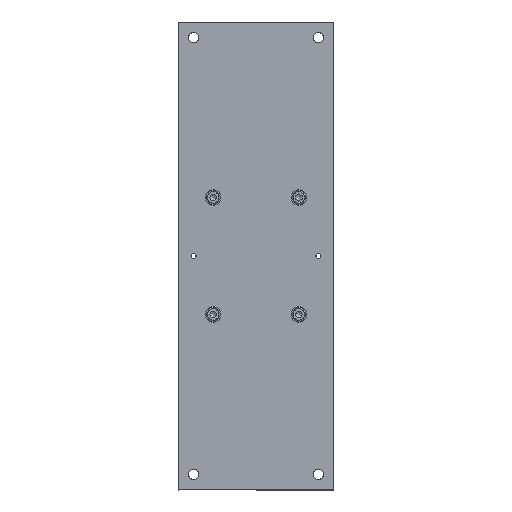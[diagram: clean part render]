
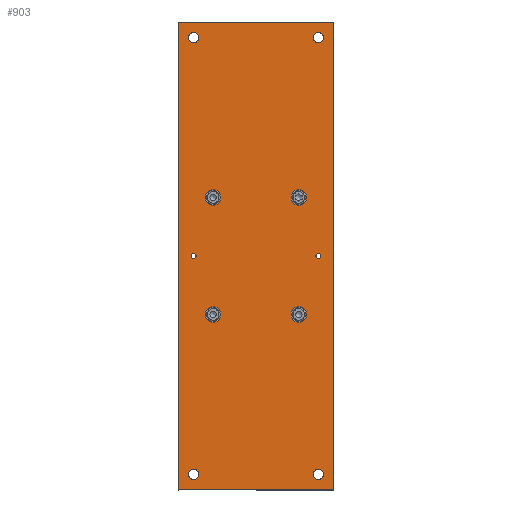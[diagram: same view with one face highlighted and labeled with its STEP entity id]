
A CAD part, top view. The second image highlights one B-rep face of the part: STEP entity #903.
In plain terms, the highlighted planar face has unit normal (0, 0, 1).
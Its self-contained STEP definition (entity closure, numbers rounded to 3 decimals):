
#70=LINE('',#1566,#116);
#73=LINE('',#1572,#119);
#76=LINE('',#1578,#122);
#79=LINE('',#1582,#125);
#116=VECTOR('',#1293,10.);
#119=VECTOR('',#1298,10.);
#122=VECTOR('',#1303,10.);
#125=VECTOR('',#1308,10.);
#170=FACE_BOUND('',#278,.T.);
#171=FACE_BOUND('',#279,.T.);
#172=FACE_BOUND('',#280,.T.);
#173=FACE_BOUND('',#281,.T.);
#174=FACE_BOUND('',#282,.T.);
#175=FACE_BOUND('',#283,.T.);
#176=FACE_BOUND('',#284,.T.);
#177=FACE_BOUND('',#285,.T.);
#178=FACE_BOUND('',#286,.T.);
#179=FACE_BOUND('',#287,.T.);
#222=FACE_OUTER_BOUND('',#277,.T.);
#277=EDGE_LOOP('',(#732,#733,#734,#735));
#278=EDGE_LOOP('',(#736,#737));
#279=EDGE_LOOP('',(#738,#739));
#280=EDGE_LOOP('',(#740,#741));
#281=EDGE_LOOP('',(#742,#743));
#282=EDGE_LOOP('',(#744,#745));
#283=EDGE_LOOP('',(#746,#747));
#284=EDGE_LOOP('',(#748));
#285=EDGE_LOOP('',(#749));
#286=EDGE_LOOP('',(#750));
#287=EDGE_LOOP('',(#751));
#319=CIRCLE('',#988,5.);
#320=CIRCLE('',#989,5.);
#325=CIRCLE('',#997,5.);
#326=CIRCLE('',#998,5.);
#331=CIRCLE('',#1006,5.);
#332=CIRCLE('',#1007,5.);
#337=CIRCLE('',#1015,5.);
#338=CIRCLE('',#1016,5.);
#340=CIRCLE('',#1020,1.621);
#341=CIRCLE('',#1021,1.621);
#343=CIRCLE('',#1024,1.621);
#344=CIRCLE('',#1025,1.621);
#351=CIRCLE('',#1035,3.3);
#357=CIRCLE('',#1044,3.3);
#363=CIRCLE('',#1053,3.3);
#369=CIRCLE('',#1062,3.3);
#390=VERTEX_POINT('',#1415);
#391=VERTEX_POINT('',#1416);
#396=VERTEX_POINT('',#1432);
#397=VERTEX_POINT('',#1433);
#402=VERTEX_POINT('',#1449);
#403=VERTEX_POINT('',#1450);
#408=VERTEX_POINT('',#1466);
#409=VERTEX_POINT('',#1467);
#411=VERTEX_POINT('',#1476);
#412=VERTEX_POINT('',#1477);
#414=VERTEX_POINT('',#1484);
#415=VERTEX_POINT('',#1485);
#422=VERTEX_POINT('',#1505);
#428=VERTEX_POINT('',#1522);
#434=VERTEX_POINT('',#1539);
#440=VERTEX_POINT('',#1556);
#443=VERTEX_POINT('',#1563);
#444=VERTEX_POINT('',#1565);
#446=VERTEX_POINT('',#1571);
#448=VERTEX_POINT('',#1577);
#481=EDGE_CURVE('',#390,#391,#319,.T.);
#482=EDGE_CURVE('',#391,#390,#320,.T.);
#489=EDGE_CURVE('',#396,#397,#325,.T.);
#490=EDGE_CURVE('',#397,#396,#326,.T.);
#497=EDGE_CURVE('',#402,#403,#331,.T.);
#498=EDGE_CURVE('',#403,#402,#332,.T.);
#505=EDGE_CURVE('',#408,#409,#337,.T.);
#506=EDGE_CURVE('',#409,#408,#338,.T.);
#510=EDGE_CURVE('',#411,#412,#340,.T.);
#511=EDGE_CURVE('',#412,#411,#341,.T.);
#514=EDGE_CURVE('',#414,#415,#343,.T.);
#515=EDGE_CURVE('',#415,#414,#344,.T.);
#525=EDGE_CURVE('',#422,#422,#351,.T.);
#533=EDGE_CURVE('',#428,#428,#357,.T.);
#541=EDGE_CURVE('',#434,#434,#363,.T.);
#549=EDGE_CURVE('',#440,#440,#369,.T.);
#552=EDGE_CURVE('',#444,#443,#70,.T.);
#555=EDGE_CURVE('',#446,#444,#73,.T.);
#558=EDGE_CURVE('',#448,#446,#76,.T.);
#561=EDGE_CURVE('',#443,#448,#79,.T.);
#732=ORIENTED_EDGE('',*,*,#561,.T.);
#733=ORIENTED_EDGE('',*,*,#558,.T.);
#734=ORIENTED_EDGE('',*,*,#555,.T.);
#735=ORIENTED_EDGE('',*,*,#552,.T.);
#736=ORIENTED_EDGE('',*,*,#481,.T.);
#737=ORIENTED_EDGE('',*,*,#482,.T.);
#738=ORIENTED_EDGE('',*,*,#489,.T.);
#739=ORIENTED_EDGE('',*,*,#490,.T.);
#740=ORIENTED_EDGE('',*,*,#497,.T.);
#741=ORIENTED_EDGE('',*,*,#498,.T.);
#742=ORIENTED_EDGE('',*,*,#505,.T.);
#743=ORIENTED_EDGE('',*,*,#506,.T.);
#744=ORIENTED_EDGE('',*,*,#510,.T.);
#745=ORIENTED_EDGE('',*,*,#511,.T.);
#746=ORIENTED_EDGE('',*,*,#514,.T.);
#747=ORIENTED_EDGE('',*,*,#515,.T.);
#748=ORIENTED_EDGE('',*,*,#525,.T.);
#749=ORIENTED_EDGE('',*,*,#533,.T.);
#750=ORIENTED_EDGE('',*,*,#541,.T.);
#751=ORIENTED_EDGE('',*,*,#549,.T.);
#862=PLANE('',#1067);
#903=ADVANCED_FACE('',(#222,#170,#171,#172,#173,#174,#175,#176,#177,#178,
#179),#862,.T.);
#988=AXIS2_PLACEMENT_3D('',#1417,#1121,#1122);
#989=AXIS2_PLACEMENT_3D('',#1418,#1123,#1124);
#997=AXIS2_PLACEMENT_3D('',#1434,#1141,#1142);
#998=AXIS2_PLACEMENT_3D('',#1435,#1143,#1144);
#1006=AXIS2_PLACEMENT_3D('',#1451,#1161,#1162);
#1007=AXIS2_PLACEMENT_3D('',#1452,#1163,#1164);
#1015=AXIS2_PLACEMENT_3D('',#1468,#1181,#1182);
#1016=AXIS2_PLACEMENT_3D('',#1469,#1183,#1184);
#1020=AXIS2_PLACEMENT_3D('',#1478,#1193,#1194);
#1021=AXIS2_PLACEMENT_3D('',#1479,#1195,#1196);
#1024=AXIS2_PLACEMENT_3D('',#1486,#1202,#1203);
#1025=AXIS2_PLACEMENT_3D('',#1487,#1204,#1205);
#1035=AXIS2_PLACEMENT_3D('',#1507,#1227,#1228);
#1044=AXIS2_PLACEMENT_3D('',#1524,#1247,#1248);
#1053=AXIS2_PLACEMENT_3D('',#1541,#1267,#1268);
#1062=AXIS2_PLACEMENT_3D('',#1558,#1287,#1288);
#1067=AXIS2_PLACEMENT_3D('',#1583,#1309,#1310);
#1121=DIRECTION('center_axis',(0.,0.,-1.));
#1122=DIRECTION('ref_axis',(1.,0.,0.));
#1123=DIRECTION('center_axis',(0.,0.,-1.));
#1124=DIRECTION('ref_axis',(1.,0.,0.));
#1141=DIRECTION('center_axis',(0.,0.,-1.));
#1142=DIRECTION('ref_axis',(1.,0.,0.));
#1143=DIRECTION('center_axis',(0.,0.,-1.));
#1144=DIRECTION('ref_axis',(1.,0.,0.));
#1161=DIRECTION('center_axis',(0.,0.,-1.));
#1162=DIRECTION('ref_axis',(1.,0.,0.));
#1163=DIRECTION('center_axis',(0.,0.,-1.));
#1164=DIRECTION('ref_axis',(1.,0.,0.));
#1181=DIRECTION('center_axis',(0.,0.,-1.));
#1182=DIRECTION('ref_axis',(1.,0.,0.));
#1183=DIRECTION('center_axis',(0.,0.,-1.));
#1184=DIRECTION('ref_axis',(1.,0.,0.));
#1193=DIRECTION('center_axis',(0.,0.,-1.));
#1194=DIRECTION('ref_axis',(1.,0.,0.));
#1195=DIRECTION('center_axis',(0.,0.,-1.));
#1196=DIRECTION('ref_axis',(1.,0.,0.));
#1202=DIRECTION('center_axis',(0.,0.,-1.));
#1203=DIRECTION('ref_axis',(1.,0.,0.));
#1204=DIRECTION('center_axis',(0.,0.,-1.));
#1205=DIRECTION('ref_axis',(1.,0.,0.));
#1227=DIRECTION('center_axis',(0.,0.,-1.));
#1228=DIRECTION('ref_axis',(-1.,0.,0.));
#1247=DIRECTION('center_axis',(0.,0.,-1.));
#1248=DIRECTION('ref_axis',(-1.,0.,0.));
#1267=DIRECTION('center_axis',(0.,0.,-1.));
#1268=DIRECTION('ref_axis',(-1.,0.,0.));
#1287=DIRECTION('center_axis',(0.,0.,-1.));
#1288=DIRECTION('ref_axis',(-1.,0.,0.));
#1293=DIRECTION('',(0.,-1.,0.));
#1298=DIRECTION('',(-1.,0.,0.));
#1303=DIRECTION('',(0.,1.,0.));
#1308=DIRECTION('',(1.,0.,0.));
#1309=DIRECTION('center_axis',(0.,0.,1.));
#1310=DIRECTION('ref_axis',(1.,0.,0.));
#1415=CARTESIAN_POINT('',(-107.5,22.5,10.));
#1416=CARTESIAN_POINT('',(-117.5,22.5,10.));
#1417=CARTESIAN_POINT('Origin',(-112.5,22.5,10.));
#1418=CARTESIAN_POINT('Origin',(-112.5,22.5,10.));
#1432=CARTESIAN_POINT('',(-182.5,77.5,10.));
#1433=CARTESIAN_POINT('',(-192.5,77.5,10.));
#1434=CARTESIAN_POINT('Origin',(-187.5,77.5,10.));
#1435=CARTESIAN_POINT('Origin',(-187.5,77.5,10.));
#1449=CARTESIAN_POINT('',(-107.5,77.5,10.));
#1450=CARTESIAN_POINT('',(-117.5,77.5,10.));
#1451=CARTESIAN_POINT('Origin',(-112.5,77.5,10.));
#1452=CARTESIAN_POINT('Origin',(-112.5,77.5,10.));
#1466=CARTESIAN_POINT('',(-182.5,22.5,10.));
#1467=CARTESIAN_POINT('',(-192.5,22.5,10.));
#1468=CARTESIAN_POINT('Origin',(-187.5,22.5,10.));
#1469=CARTESIAN_POINT('Origin',(-187.5,22.5,10.));
#1476=CARTESIAN_POINT('',(-148.379,90.,10.));
#1477=CARTESIAN_POINT('',(-151.621,90.,10.));
#1478=CARTESIAN_POINT('Origin',(-150.,90.,10.));
#1479=CARTESIAN_POINT('Origin',(-150.,90.,10.));
#1484=CARTESIAN_POINT('',(-148.379,10.,10.));
#1485=CARTESIAN_POINT('',(-151.621,10.,10.));
#1486=CARTESIAN_POINT('Origin',(-150.,10.,10.));
#1487=CARTESIAN_POINT('Origin',(-150.,10.,10.));
#1505=CARTESIAN_POINT('',(-286.7,10.,10.));
#1507=CARTESIAN_POINT('Origin',(-290.,10.,10.));
#1522=CARTESIAN_POINT('',(-6.7,90.,10.));
#1524=CARTESIAN_POINT('Origin',(-10.,90.,10.));
#1539=CARTESIAN_POINT('',(-6.7,10.,10.));
#1541=CARTESIAN_POINT('Origin',(-10.,10.,10.));
#1556=CARTESIAN_POINT('',(-286.7,90.,10.));
#1558=CARTESIAN_POINT('Origin',(-290.,90.,10.));
#1563=CARTESIAN_POINT('',(-300.,0.,10.));
#1565=CARTESIAN_POINT('',(-300.,100.,10.));
#1566=CARTESIAN_POINT('',(-300.,0.,10.));
#1571=CARTESIAN_POINT('',(0.,100.,10.));
#1572=CARTESIAN_POINT('',(-300.,100.,10.));
#1577=CARTESIAN_POINT('',(0.,0.,10.));
#1578=CARTESIAN_POINT('',(0.,100.,10.));
#1582=CARTESIAN_POINT('',(0.,0.,10.));
#1583=CARTESIAN_POINT('Origin',(-150.,50.,10.));
